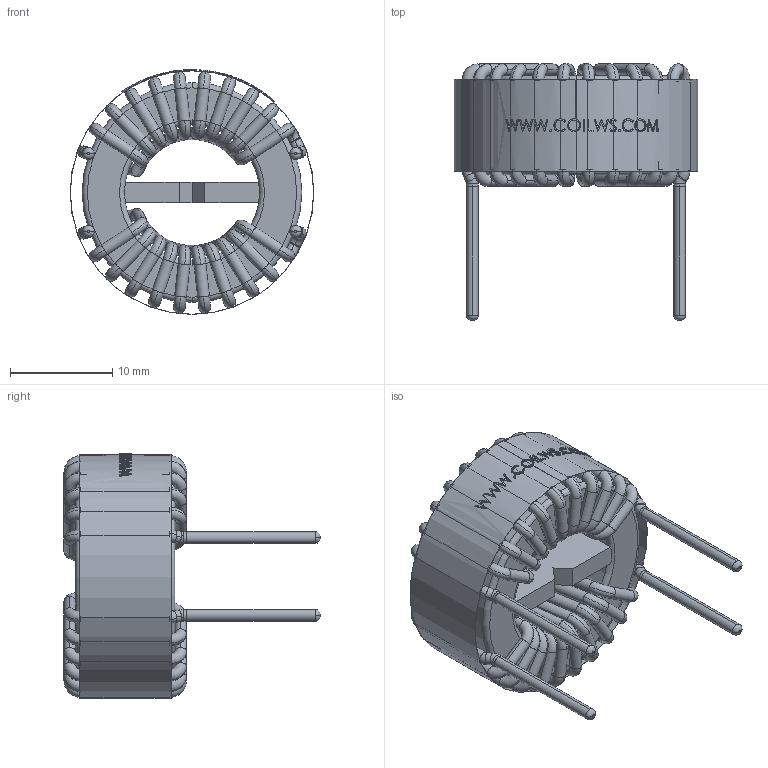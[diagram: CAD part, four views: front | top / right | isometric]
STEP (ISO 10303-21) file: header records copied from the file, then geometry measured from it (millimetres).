
FILE_DESCRIPTION (( 'STEP AP203' ), '1' );
FILE_NAME ('CM-881U-9AB-V-SW.STEP', '2021-02-01T14:24:46', ( 'Windows User' ), ( '' ), 'SwSTEP 2.0', 'SolidWorks 2015', '' );
FILE_SCHEMA (( 'CONFIG_CONTROL_DESIGN' ));
Length unit declared in the file: inch
Products named in the file (4): CM-881U-9AB-V-SPACER-SW; CM-881U-9AB-V-SW; CM-881U-9AB-V-COIL-SW; CM-881U-9AB-V-CORE-SW
Assembly tree (3 placements, depth 2):
  CM-881U-9AB-V-SW
    CM-881U-9AB-V-CORE-SW
    CM-881U-9AB-V-COIL-SW
    CM-881U-9AB-V-SPACER-SW
Bounding box: 23.87 x 25.08 x 23.97 mm (x, y, z)
Volume: 3189.9 mm3; surface area: 5764 mm2
Topology: 9 solids, 9 shells, 587 faces, 1658 edges, 1104 vertices
Faces by surface type: cylinder 222, torus 202, bspline 103, plane 60
Entity records: 24718 total; most frequent: CARTESIAN_POINT 9012, DIRECTION 3358, ORIENTED_EDGE 3316, EDGE_CURVE 1658, AXIS2_PLACEMENT_3D 1558, VERTEX_POINT 1104, CIRCLE 1068, EDGE_LOOP 606
